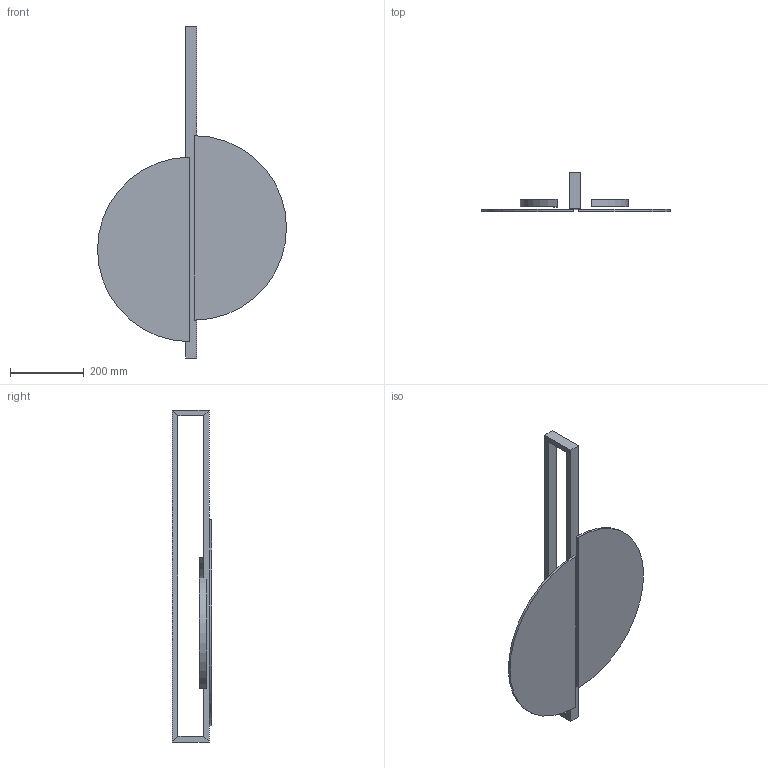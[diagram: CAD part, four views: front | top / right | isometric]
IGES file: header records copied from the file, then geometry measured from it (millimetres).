
Start section: SolidWorks IGES file using analytic representation for surfaces
Global section: file name: X:\PRODUKT\Modele 3D_WWW\_KOLEKCJE WWW\SUNSET\SUNSET-B-NATURAL-10577\SUNSET-B-NATURAL-10577.IGS; native system: SolidWorks 2021; preprocessor: SolidWorks 2021; author: gabriela.tworek; date: 221031.094425; units: millimetre
Bounding box: 512.32 x 106.4 x 900 mm (x, y, z)
Surface area: 621254.4 mm2 (no closed solid volume)
Topology: 0 solids, 0 shells, 44 faces, 168 edges, 168 vertices
Faces by surface type: bspline 38, revolution 6
